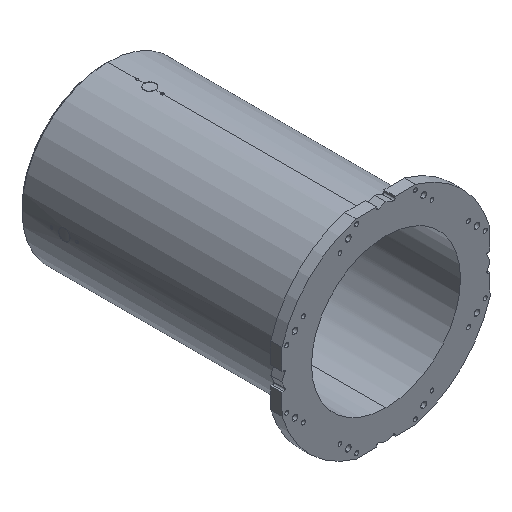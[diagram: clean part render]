
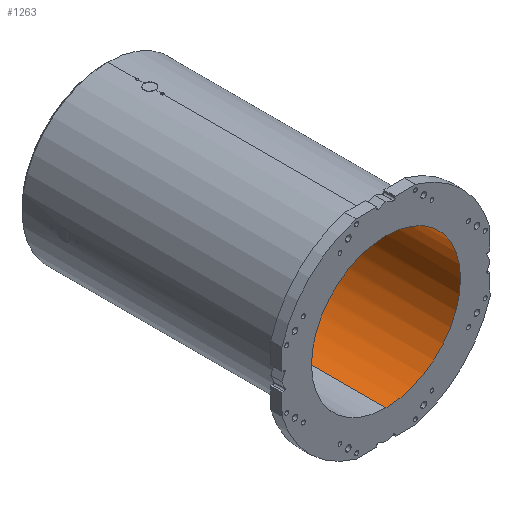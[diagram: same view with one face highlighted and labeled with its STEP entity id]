
A CAD part, isometric view. The second image highlights one B-rep face of the part: STEP entity #1263.
In plain terms, the highlighted cylindrical face has radius 265 mm (diameter 530 mm), a partial arc.
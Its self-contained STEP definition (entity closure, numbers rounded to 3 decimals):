
#153 = LINE ( 'NONE', #7266, #9708 ) ;
#702 = EDGE_CURVE ( 'NONE', #6273, #6190, #9880, .T. ) ;
#742 = CARTESIAN_POINT ( 'NONE',  ( 0., 963., -265. ) ) ;
#850 = AXIS2_PLACEMENT_3D ( 'NONE', #4103, #7189, #8408 ) ;
#1170 = CARTESIAN_POINT ( 'NONE',  ( 0., 0., 0. ) ) ;
#1263 = ADVANCED_FACE ( 'NONE', ( #7465 ), #4323, .F. ) ;
#2331 = ORIENTED_EDGE ( 'NONE', *, *, #8926, .F. ) ;
#2591 = CARTESIAN_POINT ( 'NONE',  ( 0., 0., 265. ) ) ;
#2618 = CARTESIAN_POINT ( 'NONE',  ( 0., 963., 265. ) ) ;
#2992 = CIRCLE ( 'NONE', #6644, 265. ) ;
#3367 = EDGE_CURVE ( 'NONE', #7586, #6273, #153, .T. ) ;
#3435 = EDGE_LOOP ( 'NONE', ( #2331, #11625, #8564, #11225 ) ) ;
#4103 = CARTESIAN_POINT ( 'NONE',  ( 0., 0., 0. ) ) ;
#4191 = DIRECTION ( 'NONE',  ( 0., -1., 0. ) ) ;
#4323 = CYLINDRICAL_SURFACE ( 'NONE', #12473, 265. ) ;
#4435 = VECTOR ( 'NONE', #5560, 1000. ) ;
#5560 = DIRECTION ( 'NONE',  ( 0., -1., 0. ) ) ;
#5563 = CARTESIAN_POINT ( 'NONE',  ( 0., 963., 0. ) ) ;
#5765 = LINE ( 'NONE', #2591, #4435 ) ;
#6190 = VERTEX_POINT ( 'NONE', #8432 ) ;
#6273 = VERTEX_POINT ( 'NONE', #11669 ) ;
#6644 = AXIS2_PLACEMENT_3D ( 'NONE', #5563, #7635, #11832 ) ;
#7189 = DIRECTION ( 'NONE',  ( 0., -1., 0. ) ) ;
#7266 = CARTESIAN_POINT ( 'NONE',  ( 0., 0., -265. ) ) ;
#7442 = VERTEX_POINT ( 'NONE', #2618 ) ;
#7465 = FACE_OUTER_BOUND ( 'NONE', #3435, .T. ) ;
#7586 = VERTEX_POINT ( 'NONE', #742 ) ;
#7635 = DIRECTION ( 'NONE',  ( 0., 1., 0. ) ) ;
#8408 = DIRECTION ( 'NONE',  ( 0., 0., -1. ) ) ;
#8431 = DIRECTION ( 'NONE',  ( 0., 0., -1. ) ) ;
#8432 = CARTESIAN_POINT ( 'NONE',  ( 0., 0., 265. ) ) ;
#8564 = ORIENTED_EDGE ( 'NONE', *, *, #3367, .T. ) ;
#8926 = EDGE_CURVE ( 'NONE', #7442, #6190, #5765, .T. ) ;
#9708 = VECTOR ( 'NONE', #11846, 1000. ) ;
#9880 = CIRCLE ( 'NONE', #850, 265. ) ;
#11225 = ORIENTED_EDGE ( 'NONE', *, *, #702, .T. ) ;
#11625 = ORIENTED_EDGE ( 'NONE', *, *, #11901, .T. ) ;
#11669 = CARTESIAN_POINT ( 'NONE',  ( 0., 0., -265. ) ) ;
#11832 = DIRECTION ( 'NONE',  ( 0., 0., -1. ) ) ;
#11846 = DIRECTION ( 'NONE',  ( 0., -1., 0. ) ) ;
#11901 = EDGE_CURVE ( 'NONE', #7442, #7586, #2992, .T. ) ;
#12473 = AXIS2_PLACEMENT_3D ( 'NONE', #1170, #4191, #8431 ) ;
